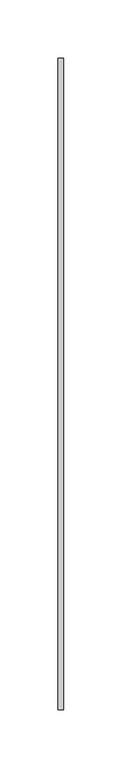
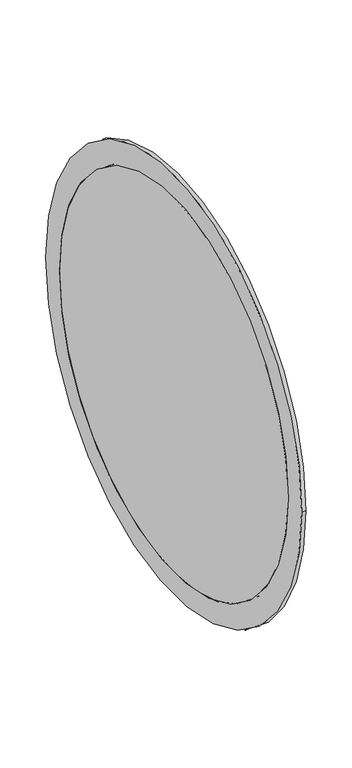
"""IFC4 building model written with IfcOpenShell, lengths in millimetres: air terminal geometry, С(К) : нержавеющая сталь."""

from ifc_helpers import new_model, si_unit, point, frame, origin, origin_2d, place, context, project, spatial, circle_curve, trimmed, segment, composite_curve, outline, extrude, source, transform, mapped, element, save


def air_terminal_e7ebdbe2(model_context):
    return source(origin(), model_context, "Body", "SweptSolid", [
        extrude(outline(composite_curve([segment(trimmed(circle_curve(origin_2d(), 280.0), [point((-280.0, 0.0))], [point((280.0, 0.0))], False, "CARTESIAN"), True, "CONTINUOUS"), segment(trimmed(circle_curve(origin_2d(), 280.0), [point((280.0, 0.0))], [point((-280.0, 0.0))], False, "CARTESIAN"), True, "CONTINUOUS")], self_intersect=False), holes=[composite_curve([segment(trimmed(circle_curve(origin_2d(), 250.0), [point((-250.0, 0.0))], [point((250.0, 0.0))], True, "CARTESIAN"), True, "CONTINUOUS"), segment(trimmed(circle_curve(origin_2d(), 250.0), [point((250.0, 0.0))], [point((-250.0, 0.0))], True, "CARTESIAN"), True, "CONTINUOUS")], self_intersect=False)]), frame((-5.0, 0.0, 0.0), z_axis=(1.0, 0.0, 0.0), x_axis=(0.0, 1.0, 0.0)), (0.0, 0.0, 1.0), 5.0),
        extrude(outline(composite_curve([segment(trimmed(circle_curve(origin_2d(), 250.0), [point((-250.0, 0.0))], [point((250.0, 0.0))], False, "CARTESIAN"), True, "CONTINUOUS"), segment(trimmed(circle_curve(origin_2d(), 250.0), [point((250.0, 0.0))], [point((-250.0, 0.0))], False, "CARTESIAN"), True, "CONTINUOUS")], self_intersect=False)), frame((-5.0, 0.0, 0.0), z_axis=(1.0, 0.0, 0.0), x_axis=(0.0, 1.0, 0.0)), (0.0, 0.0, 1.0), 5.0),
    ])


if __name__ == "__main__":
    model = new_model("IFC4")
    model_context = context("Model", 3, world=origin())
    ifc_project = project(units=[si_unit("LENGTHUNIT", "METRE", prefix="MILLI")], contexts=[model_context])
    site = spatial("IfcSite", under=ifc_project)
    building = spatial("IfcBuilding", under=site)
    placement = place(None, origin())
    air_terminal_shape = air_terminal_e7ebdbe2(model_context)
    element("IfcAirTerminal", 1, ObjectType="С(К) : нержавеющая сталь", at=placement, inside=building, context=model_context, shape_type="MappedRepresentation", body=[
        mapped(air_terminal_shape, transform((0.0, 0.0, 0.0), x_axis=(1.0, 0.0, 0.0), y_axis=(0.0, 1.0, 0.0), z_axis=(0.0, 0.0, 1.0))),
    ])
    save(model, "model.ifc")
